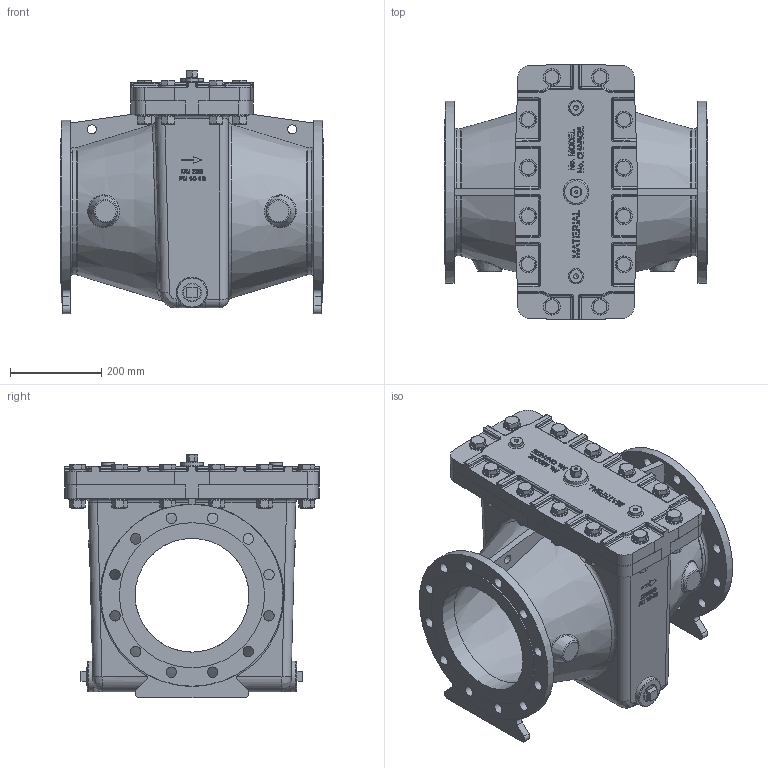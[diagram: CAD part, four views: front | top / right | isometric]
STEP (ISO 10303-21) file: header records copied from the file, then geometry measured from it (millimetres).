
FILE_DESCRIPTION(/* description */ (''),/* implementation_level */ '2;1');
FILE_NAME(/* name */ 'G:\Doc_Liberes\SymbolesCAD\Silhouettes3D\FichierSTP\Aqua\Aqua90501\FAB250_10.stp',/* time_stamp */ '2014-05-13T13:12:25+02:00',/* author */ ('Cédric'),/* organization */ (''),/* preprocessor_version */ 'ST-DEVELOPER v15.2',/* originating_system */ 'Autodesk Inventor 2014',/* authorisation */ '');
FILE_SCHEMA (('AUTOMOTIVE_DESIGN { 1 0 10303 214 3 1 1 }'));
Length unit declared in the file: millimetre
Products named in the file (1): Pièce22
Bounding box: 580 x 560 x 534.5 mm (x, y, z)
Volume: 21309610.1 mm3; surface area: 2534088.5 mm2
Topology: 1 solids, 15 shells, 1895 faces, 4737 edges, 3024 vertices
Faces by surface type: plane 1017, cylinder 347, bspline 283, cone 144, torus 74, sphere 30
Full cylindrical faces by diameter (mm): 1.6 x1, 2.3 x1, 6.5 x1, 6.92 x2, 10.11 x2, 14 x1, 17.294 x12, 18.63 x1, 20 x14, 20.955 x1, 21 x24, 22 x12, 23 x24, 28 x2, 28.19 x12, 37 x24, 38.95 x2, 50 x1, 68 x2, 250 x2, 319 x2, 400 x2
Entity records: 60692 total; most frequent: CARTESIAN_POINT 16947, ORIENTED_EDGE 8850, DIRECTION 7762, EDGE_CURVE 4416, VERTEX_POINT 2952, AXIS2_PLACEMENT_3D 2613, LINE 2536, VECTOR 2536
